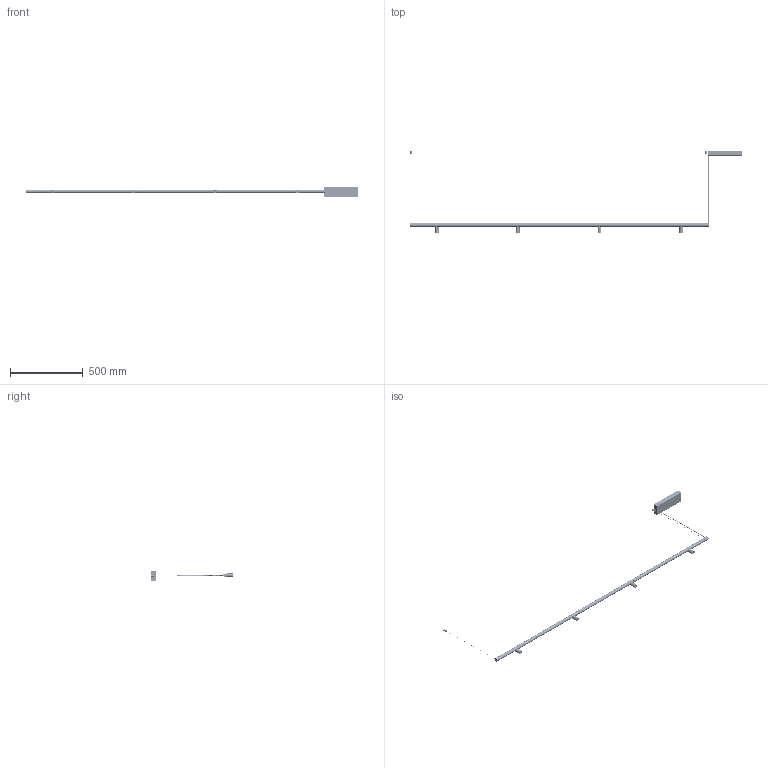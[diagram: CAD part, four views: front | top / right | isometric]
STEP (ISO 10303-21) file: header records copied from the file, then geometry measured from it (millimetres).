
FILE_DESCRIPTION (( 'STEP AP214' ), '1' );
FILE_NAME ('OVAL SPOT 20 surf.STEP', '2024-03-15T08:49:22', ( '' ), ( '' ), 'SwSTEP 2.0', 'SolidWorks 2024', '' );
FILE_SCHEMA (( 'AUTOMOTIVE_DESIGN' ));
Length unit declared in the file: millimetre
Products named in the file (43): CJ01-ENS_Adaptador 24V_Proyector; countersunk flat head cross recess screw_din_DIN EN ISO 7046-1 - M2.5 x 6 - Z - 6N; Regulador Cable Ø0.6 (Bereta LT1007.0601); Holder; CUI_DEVICES_PJ-005B_Ø2.5; Tapon Tapa_2; Cable_VISUAL Alimentación Micro; Perfil Micro V4_2m; Ensamble Conector Jack Unión_Alimentación Colgante SCPRE; DM05-Tapa SPOT(V1.2); Difusor Negro Oval_0.1m; Chapa Floron Micro_Techo; 04-23DM02-Adaptador_Tapa(V1.2)_24V; Conector Molex Hembra 43020; Tija Tiny_Inyección ; Driver Entity EN1689; Difusor Negro Oval_0.44m; OVAL SPOT 20 surf; Tubo Alu. Focus 25_V3-30-09-21; Prisionero STEAB M4x4_8; 04-23DM01-Adaptador_Caja_DM01.3; CJ04 - ENS Foco Spot (V1.2)_V3 09-20; Tapa Unión-Final V5_V5.1 Colgante Union ; Taco cuerpo Micro; Ensamble Floron Superficie_Colgante; Taco Micro_Ø10 M10*5; Lente -115.11.HILL-20-22°-CREE; Kgp 100w-24V; Remache 3 Cabeza CONICA_remachado; Essentra Pasamuro 498025; Boca Focus 25_ZDNTL; Imán_12d*5; Ensamble Tensor Micro_Con Cable; Ensamble Led; Cable acero_0.5m; Jack_Scpre; 04-23DM03-Tope_Adaptador_1.3; Ensamble Tapa + Tope_Con Conector; Tapa Micro V5_V5.1; BLX V-4 Single Array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
Assembly tree (59 placements, depth 4):
  OVAL SPOT 20 surf
    Perfil Micro V4_2m
    CJ01-ENS_Adaptador 24V_Proyector  x4
      04-23DM01-Adaptador_Caja_DM01.3
      04-23DM02-Adaptador_Tapa(V1.2)_24V
      Conector Molex Hembra 43020
      Driver Entity EN1689
      04-23DM03-Tope_Adaptador_1.3
      Tija Tiny_Inyección 
    CJ04 - ENS Foco Spot (V1.2)_V3 09-20  x4
      Tubo Alu. Focus 25_V3-30-09-21
      Boca Focus 25_ZDNTL
      Ensamble Led
        BLX V-4 Single Array
        Holder
        countersunk flat head cross recess screw_din_DIN EN ISO 7046-1 - M2.5 x 6 - Z - 6N  x2
      Prisionero STEAB M4x4_8
      Lente -115.11.HILL-20-22°-CREE
      DM05-Tapa SPOT(V1.2)
    Difusor Negro Oval_0.1m  x2
    Difusor Negro Oval_0.44m  x3
    Ensamble Tapa + Tope_Con Conector  x2
      Tapa Micro V5_V5.1
      CUI_DEVICES_PJ-005B_Ø2.5
      Tuerca Hembra Conector Jack
    Ensamble Tensor Micro_Con Cable  x2
      Taco Micro_Ø10 M10*5
      Taco cuerpo Micro
      Regulador Cable Ø0.6 (Bereta LT1007.0601)
      Cable acero_0.5m
    Tapa Unión-Final V5_V5.1 Colgante Union   x2
    Ensamble Floron Superficie_Colgante
      Kgp 100w-24V
      Embellecedor Floron Micro_Micro Colgante
      Chapa Floron Micro_Techo
      Remache 3 Cabeza CONICA_remachado  x2
      Imán_12d*5  x2
      Essentra Pasamuro 498025
    Ensamble Conector Jack Unión_Alimentación Colgante SCPRE
      Cable_VISUAL Alimentación Micro
      Jack_Scpre
      Tapa Alimentación Perfil_SCPRE
      Prisionero STEAB M4x4_8
    Tapon Tapa_2
Bounding box: 2274.44 x 567.27 x 75.27 mm (x, y, z)
Volume: 539908.2 mm3; surface area: 754836.7 mm2
Topology: 102 solids, 164 shells, 8860 faces, 23766 edges, 15288 vertices
Faces by surface type: plane 4011, cylinder 2843, bspline 923, torus 523, cone 404, sphere 156
Entity records: 162602 total; most frequent: CARTESIAN_POINT 68737, ORIENTED_EDGE 20537, DIRECTION 17747, EDGE_CURVE 10316, VERTEX_POINT 6733, VECTOR 6207, LINE 6207, AXIS2_PLACEMENT_3D 5770
